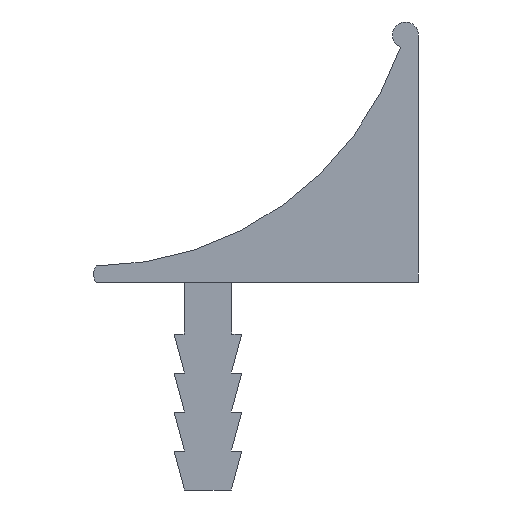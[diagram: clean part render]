
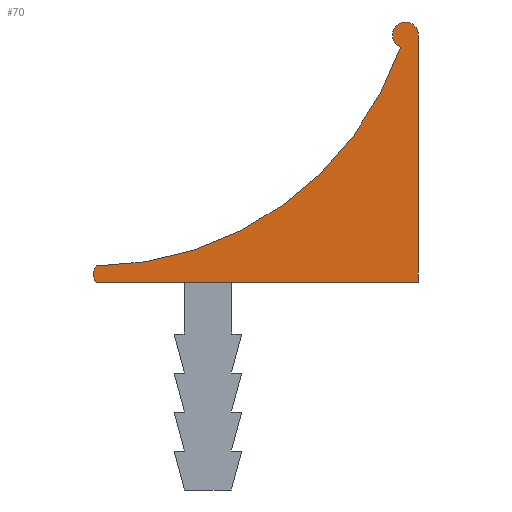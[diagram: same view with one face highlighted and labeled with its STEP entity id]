
A CAD part, left-side view. The second image highlights one B-rep face of the part: STEP entity #70.
In plain terms, the highlighted planar face has unit normal (-1, 0, 0).
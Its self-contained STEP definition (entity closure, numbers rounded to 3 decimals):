
#70 = ADVANCED_FACE( '', ( #153 ), #154, .F. );
#153 = FACE_OUTER_BOUND( '', #245, .T. );
#154 = PLANE( '', #246 );
#245 = EDGE_LOOP( '', ( #379, #380, #381, #382, #383 ) );
#246 = AXIS2_PLACEMENT_3D( '', #384, #385, #386 );
#379 = ORIENTED_EDGE( '', *, *, #610, .F. );
#380 = ORIENTED_EDGE( '', *, *, #598, .F. );
#381 = ORIENTED_EDGE( '', *, *, #589, .F. );
#382 = ORIENTED_EDGE( '', *, *, #611, .F. );
#383 = ORIENTED_EDGE( '', *, *, #612, .T. );
#384 = CARTESIAN_POINT( '', ( -30., 3.507, 21.117 ) );
#385 = DIRECTION( '', ( 1., 0., 0. ) );
#386 = DIRECTION( '', ( 0., 0., -1. ) );
#589 = EDGE_CURVE( '', #710, #711, #712, .T. );
#598 = EDGE_CURVE( '', #711, #727, #728, .T. );
#610 = EDGE_CURVE( '', #727, #745, #746, .T. );
#611 = EDGE_CURVE( '', #747, #710, #748, .T. );
#612 = EDGE_CURVE( '', #747, #745, #749, .T. );
#710 = VERTEX_POINT( '', #882 );
#711 = VERTEX_POINT( '', #883 );
#712 = LINE( '', #884, #885 );
#727 = VERTEX_POINT( '', #907 );
#728 = LINE( '', #908, #909 );
#745 = VERTEX_POINT( '', #934 );
#746 = CIRCLE( '', #935, 0.5 );
#747 = VERTEX_POINT( '', #936 );
#748 = CIRCLE( '', #937, 0.502 );
#749 = CIRCLE( '', #938, 12.5 );
#882 = CARTESIAN_POINT( '', ( -30., -8.998, 17.501 ) );
#883 = CARTESIAN_POINT( '', ( -30., -8.998, 8. ) );
#884 = CARTESIAN_POINT( '', ( -30., -8.998, 17.501 ) );
#885 = VECTOR( '', #1061, 1000. );
#907 = CARTESIAN_POINT( '', ( -30., 3.402, 8. ) );
#908 = CARTESIAN_POINT( '', ( -30., -8.998, 8. ) );
#909 = VECTOR( '', #1069, 1000. );
#934 = CARTESIAN_POINT( '', ( -30., 3.386, 8.617 ) );
#935 = AXIS2_PLACEMENT_3D( '', #1078, #1079, #1080 );
#936 = CARTESIAN_POINT( '', ( -30., -8.308, 17.036 ) );
#937 = AXIS2_PLACEMENT_3D( '', #1081, #1082, #1083 );
#938 = AXIS2_PLACEMENT_3D( '', #1084, #1085, #1086 );
#1061 = DIRECTION( '', ( 0., 0., -1. ) );
#1069 = DIRECTION( '', ( 0., 1., 0. ) );
#1078 = CARTESIAN_POINT( '', ( -30., 3.001, 8.299 ) );
#1079 = DIRECTION( '', ( 1., 0., 0. ) );
#1080 = DIRECTION( '', ( 0., 0., -1. ) );
#1081 = CARTESIAN_POINT( '', ( -30., -8.496, 17.501 ) );
#1082 = DIRECTION( '', ( 1., 0., 0. ) );
#1083 = DIRECTION( '', ( 0., 0., -1. ) );
#1084 = CARTESIAN_POINT( '', ( -30., 3.507, 21.117 ) );
#1085 = DIRECTION( '', ( 1., 0., 0. ) );
#1086 = DIRECTION( '', ( 0., 0., -1. ) );
